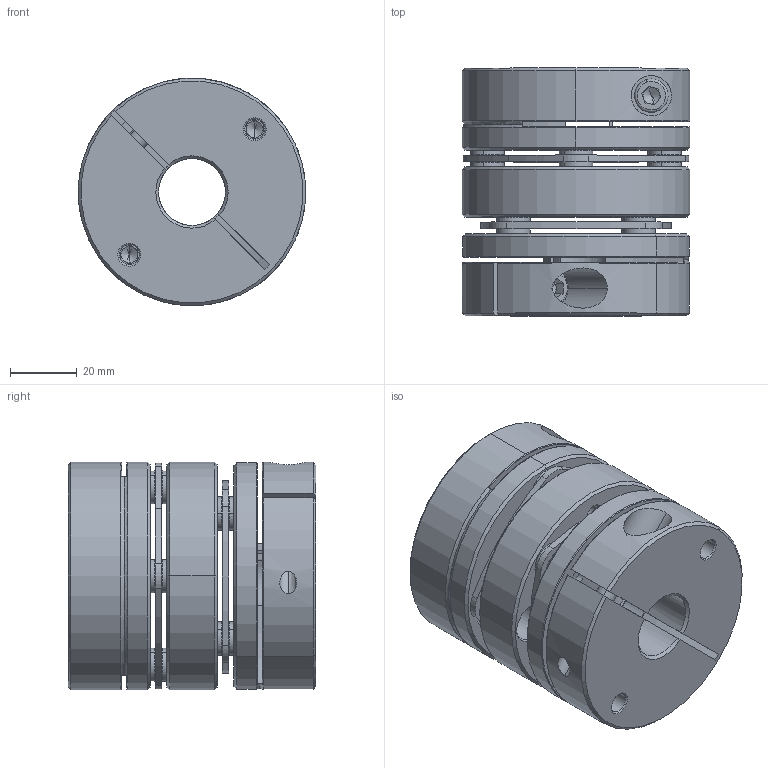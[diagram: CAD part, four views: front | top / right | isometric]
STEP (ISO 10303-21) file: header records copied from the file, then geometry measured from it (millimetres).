
FILE_DESCRIPTION (( 'STEP AP203' ), '1' );
FILE_NAME ('LD2-D68-20-20.STEP', '2021-10-26T08:31:27', ( '' ), ( '' ), 'SwSTEP 2.0', 'SolidWorks 2018', '' );
FILE_SCHEMA (( 'CONFIG_CONTROL_DESIGN' ));
Length unit declared in the file: millimetre
Products named in the file (2): 錨璃102^LD2-D68; LD2-D68-20-20
Assembly tree (1 placements, depth 2):
  LD2-D68-20-20
    錨璃102^LD2-D68
Bounding box: 68 x 74 x 68 mm (x, y, z)
Volume: 189756 mm3; surface area: 64706 mm2
Topology: 1 solids, 27 shells, 740 faces, 1720 edges, 1048 vertices
Faces by surface type: cylinder 260, cone 226, plane 224, torus 30
Entity records: 21674 total; most frequent: DIRECTION 4030, CARTESIAN_POINT 3954, ORIENTED_EDGE 3392, EDGE_CURVE 1696, AXIS2_PLACEMENT_3D 1636, VERTEX_POINT 1048, CIRCLE 892, EDGE_LOOP 876
